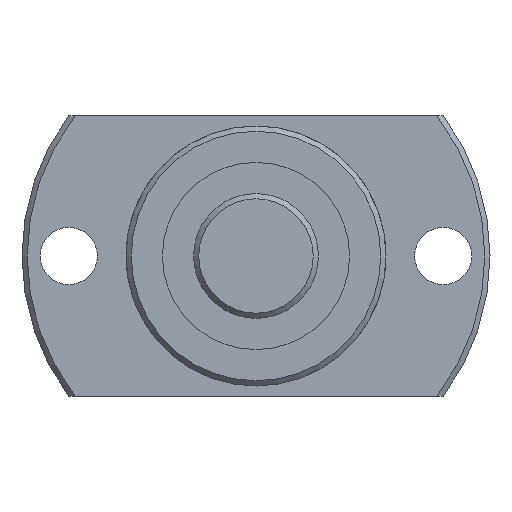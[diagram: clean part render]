
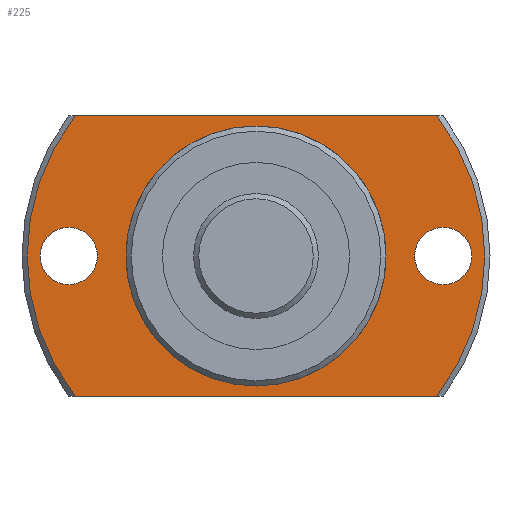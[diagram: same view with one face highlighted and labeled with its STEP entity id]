
A CAD part, left-side view. The second image highlights one B-rep face of the part: STEP entity #225.
In plain terms, the highlighted planar face has unit normal (-1, 0, 0).
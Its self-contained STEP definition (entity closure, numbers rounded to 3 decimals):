
#225 = ADVANCED_FACE( '', ( #380, #381, #382, #383 ), #384, .F. );
#380 = FACE_OUTER_BOUND( '', #559, .T. );
#381 = FACE_BOUND( '', #560, .T. );
#382 = FACE_BOUND( '', #561, .T. );
#383 = FACE_BOUND( '', #562, .T. );
#384 = PLANE( '', #563 );
#559 = EDGE_LOOP( '', ( #994, #995, #996, #997 ) );
#560 = EDGE_LOOP( '', ( #998 ) );
#561 = EDGE_LOOP( '', ( #999 ) );
#562 = EDGE_LOOP( '', ( #1000 ) );
#563 = AXIS2_PLACEMENT_3D( '', #1001, #1002, #1003 );
#994 = ORIENTED_EDGE( '', *, *, #1143, .F. );
#995 = ORIENTED_EDGE( '', *, *, #1242, .T. );
#996 = ORIENTED_EDGE( '', *, *, #1236, .F. );
#997 = ORIENTED_EDGE( '', *, *, #1137, .T. );
#998 = ORIENTED_EDGE( '', *, *, #1243, .T. );
#999 = ORIENTED_EDGE( '', *, *, #1244, .T. );
#1000 = ORIENTED_EDGE( '', *, *, #1238, .T. );
#1001 = CARTESIAN_POINT( '', ( 19., 12.25, 0. ) );
#1002 = DIRECTION( '', ( 1., 0., 0. ) );
#1003 = DIRECTION( '', ( 0., 0., -1. ) );
#1137 = EDGE_CURVE( '', #1307, #1305, #1308, .T. );
#1143 = EDGE_CURVE( '', #1318, #1305, #1319, .T. );
#1236 = EDGE_CURVE( '', #1307, #1480, #1481, .T. );
#1238 = EDGE_CURVE( '', #1483, #1483, #1484, .T. );
#1242 = EDGE_CURVE( '', #1318, #1480, #1488, .T. );
#1243 = EDGE_CURVE( '', #1489, #1489, #1490, .T. );
#1244 = EDGE_CURVE( '', #1491, #1491, #1492, .T. );
#1305 = VERTEX_POINT( '', #1568 );
#1307 = VERTEX_POINT( '', #1573 );
#1308 = LINE( '', #1574, #1575 );
#1318 = VERTEX_POINT( '', #1596 );
#1319 = CIRCLE( '', #1597, 22. );
#1480 = VERTEX_POINT( '', #1865 );
#1481 = CIRCLE( '', #1866, 22. );
#1483 = VERTEX_POINT( '', #1871 );
#1484 = CIRCLE( '', #1872, 12.25 );
#1488 = LINE( '', #1876, #1877 );
#1489 = VERTEX_POINT( '', #1878 );
#1490 = CIRCLE( '', #1879, 2.75 );
#1491 = VERTEX_POINT( '', #1880 );
#1492 = CIRCLE( '', #1881, 2.75 );
#1568 = CARTESIAN_POINT( '', ( 19., 17.371, 13.5 ) );
#1573 = CARTESIAN_POINT( '', ( 19., -17.371, 13.5 ) );
#1574 = CARTESIAN_POINT( '', ( 19., 12.25, 13.5 ) );
#1575 = VECTOR( '', #1962, 1000. );
#1596 = CARTESIAN_POINT( '', ( 19., 17.371, -13.5 ) );
#1597 = AXIS2_PLACEMENT_3D( '', #1965, #1966, #1967 );
#1865 = CARTESIAN_POINT( '', ( 19., -17.371, -13.5 ) );
#1866 = AXIS2_PLACEMENT_3D( '', #2125, #2126, #2127 );
#1871 = CARTESIAN_POINT( '', ( 19., 0., -12.25 ) );
#1872 = AXIS2_PLACEMENT_3D( '', #2128, #2129, #2130 );
#1876 = CARTESIAN_POINT( '', ( 19., 12.25, -13.5 ) );
#1877 = VECTOR( '', #2140, 1000. );
#1878 = CARTESIAN_POINT( '', ( 19., 18., -2.75 ) );
#1879 = AXIS2_PLACEMENT_3D( '', #2141, #2142, #2143 );
#1880 = CARTESIAN_POINT( '', ( 19., -18., -2.75 ) );
#1881 = AXIS2_PLACEMENT_3D( '', #2144, #2145, #2146 );
#1962 = DIRECTION( '', ( 0., 1., 0. ) );
#1965 = CARTESIAN_POINT( '', ( 19., 0., 0. ) );
#1966 = DIRECTION( '', ( 1., 0., 0. ) );
#1967 = DIRECTION( '', ( 0., 0., -1. ) );
#2125 = CARTESIAN_POINT( '', ( 19., 0., 0. ) );
#2126 = DIRECTION( '', ( 1., 0., 0. ) );
#2127 = DIRECTION( '', ( 0., 0., -1. ) );
#2128 = CARTESIAN_POINT( '', ( 19., 0., 0. ) );
#2129 = DIRECTION( '', ( 1., 0., 0. ) );
#2130 = DIRECTION( '', ( 0., 0., -1. ) );
#2140 = DIRECTION( '', ( 0., -1., 0. ) );
#2141 = CARTESIAN_POINT( '', ( 19., 18., 0. ) );
#2142 = DIRECTION( '', ( 1., 0., 0. ) );
#2143 = DIRECTION( '', ( 0., 0., -1. ) );
#2144 = CARTESIAN_POINT( '', ( 19., -18., 0. ) );
#2145 = DIRECTION( '', ( 1., 0., 0. ) );
#2146 = DIRECTION( '', ( 0., 0., -1. ) );
